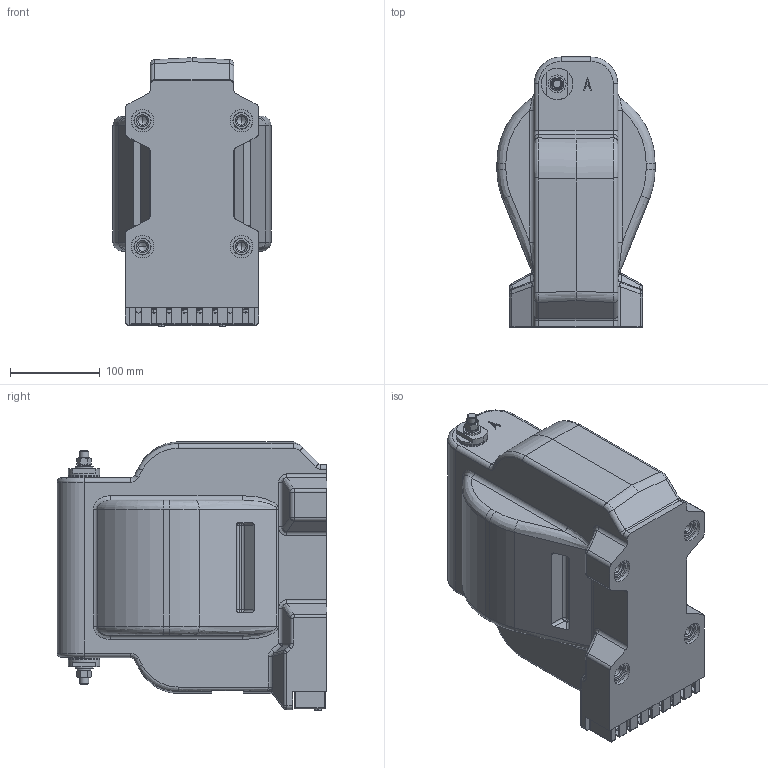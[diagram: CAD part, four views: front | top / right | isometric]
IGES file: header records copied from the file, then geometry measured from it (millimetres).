
Start section: IGES file generated from Kompas f.0 for Windows drawing by the IGES translator from Ascon Ltd., translator version IGESOUT-5.1.
Global section: file name: W:\3D_ìîäåëè\ÐÅÅÑÒÐ 3Ä ÌÎÄÅËÅÉ\319 ÎËÑÏ-ÍÒÇ-1,25-6(10)-01 ÓÕË2, Ò2\ÎËÑÏ-ÍÒÇ-1,25_6(10)-01 ÓÕË2(Ò2).igs; native system: Kompas( 32 bit ) for Windows; preprocessor: 1.0; author: unknown; organization: unknown; date: -17760511:063325; units: millimetre
Bounding box: 176 x 300.01 x 298.6 mm (x, y, z)
Volume: 5212602.5 mm3; surface area: 645510.5 mm2
Topology: 38 solids, 39 shells, 1919 faces, 4863 edges, 3093 vertices
Faces by surface type: revolution 1216, bspline 703
